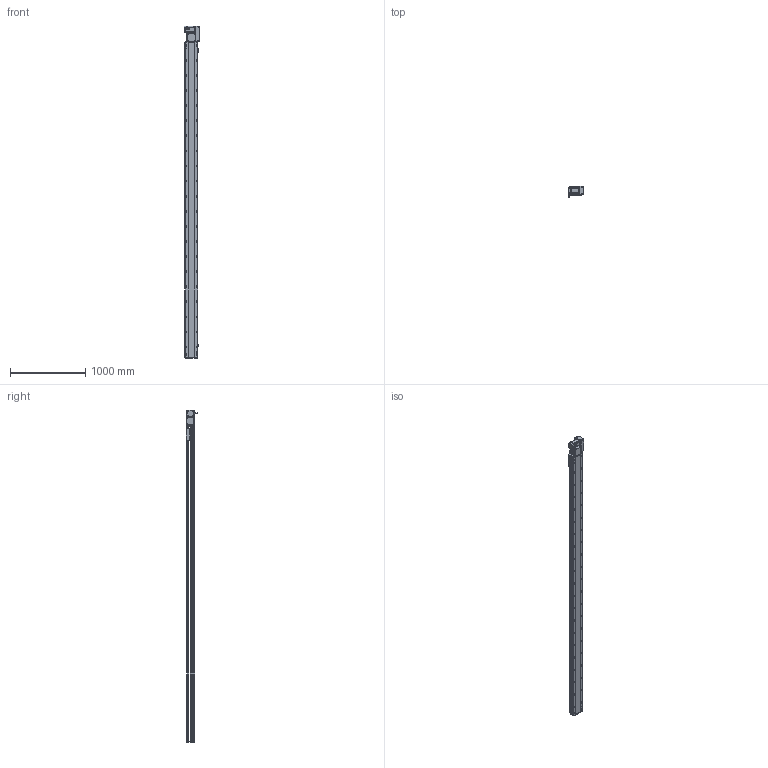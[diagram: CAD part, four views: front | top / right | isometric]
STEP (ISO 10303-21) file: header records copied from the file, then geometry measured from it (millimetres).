
FILE_DESCRIPTION (( 'STEP AP214' ), '1' );
FILE_NAME ('RTB17S-XX-3900-R-M75-C4.STEP', '2025-12-12T01:56:34', ( '' ), ( '' ), 'SwSTEP 2.0', 'SolidWorks 2018', '' );
FILE_SCHEMA (( 'AUTOMOTIVE_DESIGN' ));
Length unit declared in the file: millimetre
Products named in the file (15): RTH13-BL-012覜茼え俋离^RTB17S-賑釱_RTB17S-XX-XX-R-M75-C4; EE672^RTB17S-XX-XX-R-M75-C4; RTB17S-L-004-賑釱^RTB17S-賑釱_RTB17S-XX-XX-R-M75-C4; RTB22S-GY-008-M75--萇儂啣^RTB17S-R-々湍釱蚾饜-750W_RTB17S-XX-XX-R-M75-C4; RTB17S-L-001-耜醱啣^RTB17S-XX-XX-R-M75-C4; RTB17-R-011菁釱^RTB17S-XX-XX-R-M75-C4; RTB22S-GY-018P^RTB17S-R-々湍釱蚾饜-750W_RTB17S-XX-XX-R-M75-C4; RTB22S-GY-017P^RTB17S-R-々湍釱蚾饜-750W_RTB17S-XX-XX-R-M75-C4; RTB17S-XX-3900-R-M75-C4; RTB17S-R-々湍釱蚾饜-750W^RTB17S-XX-XX-R-M75-C4; RTB22S-GY-005P^RTB17S-R-々湍釱蚾饜-750W_RTB17S-XX-XX-R-M75-C4; RTB17S-L-014-T20-P75--々湍釱^RTB17S-R-々湍釱蚾饜-750W_RTB17S-XX-XX-R-M75-C4; RTB17S-L-007奻裔^RTB17S-XX-XX-R-M75-C4; 750W萇儂^RTB17S-XX-XX-R-M75-C4; RTB17S-賑釱^RTB17S-XX-XX-R-M75-C4
Assembly tree (17 placements, depth 3):
  RTB17S-XX-3900-R-M75-C4
    RTB17-R-011菁釱^RTB17S-XX-XX-R-M75-C4
    EE672^RTB17S-XX-XX-R-M75-C4  x3
    RTB17S-L-001-耜醱啣^RTB17S-XX-XX-R-M75-C4
    RTB17S-賑釱^RTB17S-XX-XX-R-M75-C4
      RTB17S-L-004-賑釱^RTB17S-賑釱_RTB17S-XX-XX-R-M75-C4
      RTH13-BL-012覜茼え俋离^RTB17S-賑釱_RTB17S-XX-XX-R-M75-C4
    RTB17S-L-007奻裔^RTB17S-XX-XX-R-M75-C4
    750W萇儂^RTB17S-XX-XX-R-M75-C4
    RTB17S-R-々湍釱蚾饜-750W^RTB17S-XX-XX-R-M75-C4
      RTB17S-L-014-T20-P75--々湍釱^RTB17S-R-々湍釱蚾饜-750W_RTB17S-XX-XX-R-M75-C4
      RTB22S-GY-005P^RTB17S-R-々湍釱蚾饜-750W_RTB17S-XX-XX-R-M75-C4
      RTB22S-GY-017P^RTB17S-R-々湍釱蚾饜-750W_RTB17S-XX-XX-R-M75-C4  x2
      RTB22S-GY-008-M75--萇儂啣^RTB17S-R-々湍釱蚾饜-750W_RTB17S-XX-XX-R-M75-C4
      RTB22S-GY-018P^RTB17S-R-々湍釱蚾饜-750W_RTB17S-XX-XX-R-M75-C4
Bounding box: 207.4 x 152.7 x 4399 mm (x, y, z)
Volume: 30326878.6 mm3; surface area: 5633973.1 mm2
Topology: 17 solids, 17 shells, 2329 faces, 6592 edges, 4274 vertices
Faces by surface type: plane 1000, cylinder 913, bspline 294, cone 110, sphere 8, torus 4
Entity records: 69622 total; most frequent: CARTESIAN_POINT 20856, ORIENTED_EDGE 10028, DIRECTION 9212, EDGE_CURVE 5014, AXIS2_PLACEMENT_3D 3294, VERTEX_POINT 3278, LINE 2624, VECTOR 2624
